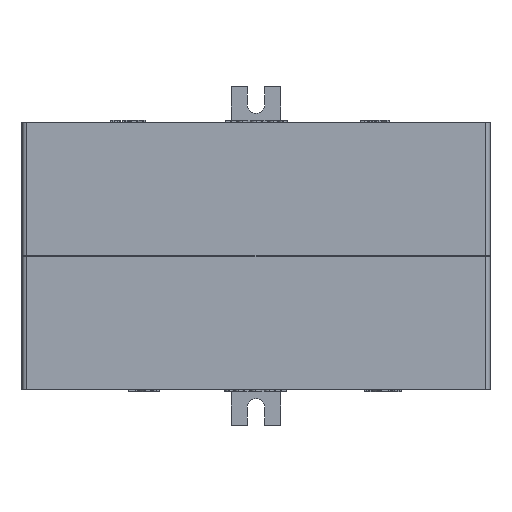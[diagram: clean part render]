
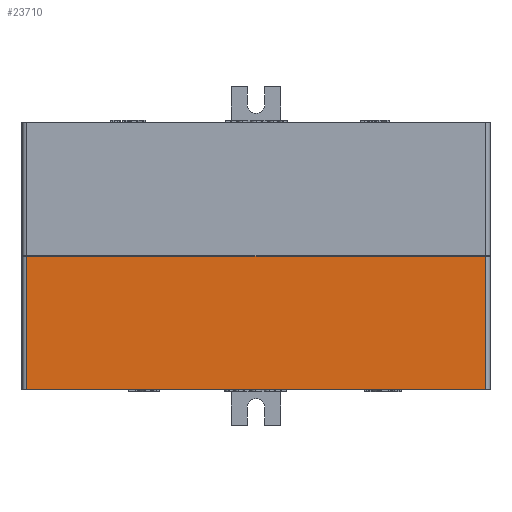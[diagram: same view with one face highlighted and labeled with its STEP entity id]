
A CAD part, front view. The second image highlights one B-rep face of the part: STEP entity #23710.
In plain terms, the highlighted planar face has unit normal (0, -1, 0).
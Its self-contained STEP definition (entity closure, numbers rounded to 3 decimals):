
#1096=PLANE('',#25017);
#2194=FACE_OUTER_BOUND('',#3503,.T.);
#3503=EDGE_LOOP('',(#19080,#19081,#19082,#19083,#19084,#19085,#19086));
#4309=LINE('',#31416,#7187);
#4319=LINE('',#31440,#7197);
#4331=LINE('',#31465,#7209);
#4347=LINE('',#31505,#7225);
#5561=LINE('',#35784,#8439);
#5616=LINE('',#35951,#8494);
#5617=LINE('',#35953,#8495);
#7187=VECTOR('',#25867,10.);
#7197=VECTOR('',#25885,10.);
#7209=VECTOR('',#25901,10.);
#7225=VECTOR('',#25931,10.);
#8439=VECTOR('',#28107,10.);
#8494=VECTOR('',#28260,10.);
#8495=VECTOR('',#28263,10.);
#10299=VERTEX_POINT('',#31413);
#10300=VERTEX_POINT('',#31415);
#10310=VERTEX_POINT('',#31439);
#10319=VERTEX_POINT('',#31461);
#10321=VERTEX_POINT('',#31464);
#11357=VERTEX_POINT('',#35781);
#11358=VERTEX_POINT('',#35783);
#12592=EDGE_CURVE('',#10299,#10300,#4309,.T.);
#12604=EDGE_CURVE('',#10300,#10310,#4319,.T.);
#12616=EDGE_CURVE('',#10319,#10321,#4331,.T.);
#12636=EDGE_CURVE('',#10310,#10319,#4347,.T.);
#14133=EDGE_CURVE('',#11357,#11358,#5561,.T.);
#14206=EDGE_CURVE('',#10321,#11357,#5616,.T.);
#14207=EDGE_CURVE('',#11358,#10299,#5617,.T.);
#19080=ORIENTED_EDGE('',*,*,#14206,.F.);
#19081=ORIENTED_EDGE('',*,*,#12616,.F.);
#19082=ORIENTED_EDGE('',*,*,#12636,.F.);
#19083=ORIENTED_EDGE('',*,*,#12604,.F.);
#19084=ORIENTED_EDGE('',*,*,#12592,.F.);
#19085=ORIENTED_EDGE('',*,*,#14207,.F.);
#19086=ORIENTED_EDGE('',*,*,#14133,.F.);
#23710=ADVANCED_FACE('',(#2194),#1096,.T.);
#25017=AXIS2_PLACEMENT_3D('',#35952,#28261,#28262);
#25867=DIRECTION('',(1.,0.,0.));
#25885=DIRECTION('',(1.,0.,0.));
#25901=DIRECTION('',(1.,0.,0.));
#25931=DIRECTION('',(1.,0.,0.));
#28107=DIRECTION('',(-1.,0.,0.));
#28260=DIRECTION('',(0.,0.,-1.));
#28261=DIRECTION('center_axis',(0.,-1.,0.));
#28262=DIRECTION('ref_axis',(1.,0.,0.));
#28263=DIRECTION('',(0.,0.,1.));
#31413=CARTESIAN_POINT('',(-51.5,-49.5,0.));
#31415=CARTESIAN_POINT('',(-31.499,-49.5,0.));
#31416=CARTESIAN_POINT('',(-26.25,-49.5,0.));
#31439=CARTESIAN_POINT('',(0.,-49.5,0.));
#31440=CARTESIAN_POINT('',(-26.25,-49.5,0.));
#31461=CARTESIAN_POINT('',(31.499,-49.5,0.));
#31464=CARTESIAN_POINT('',(51.5,-49.5,0.));
#31465=CARTESIAN_POINT('',(-26.25,-49.5,0.));
#31505=CARTESIAN_POINT('',(-26.25,-49.5,0.));
#35781=CARTESIAN_POINT('',(51.5,-49.5,-30.));
#35783=CARTESIAN_POINT('',(-51.5,-49.5,-30.));
#35784=CARTESIAN_POINT('',(-52.5,-49.5,-30.));
#35951=CARTESIAN_POINT('',(51.5,-49.5,0.));
#35952=CARTESIAN_POINT('Origin',(-52.5,-49.5,0.));
#35953=CARTESIAN_POINT('',(-51.5,-49.5,0.));
